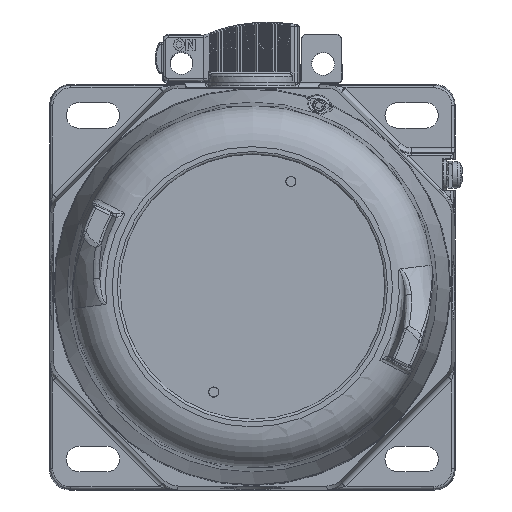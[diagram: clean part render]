
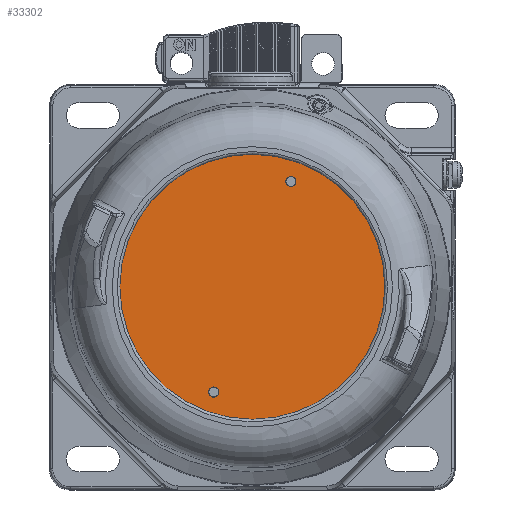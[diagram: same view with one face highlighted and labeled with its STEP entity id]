
A CAD part, top view. The second image highlights one B-rep face of the part: STEP entity #33302.
In plain terms, the highlighted planar face has unit normal (0, 0, 1) as drawn and (0, 1, 0) by its records, which use the part's own axes.
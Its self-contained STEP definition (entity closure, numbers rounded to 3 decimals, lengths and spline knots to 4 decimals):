
#1256=CIRCLE('',#35975,0.0625);
#1258=CIRCLE('',#35979,0.0625);
#1318=CIRCLE('',#36061,1.625);
#1319=CIRCLE('',#36062,1.625);
#2018=FACE_BOUND('',#6232,.T.);
#2019=FACE_BOUND('',#6233,.T.);
#2480=PLANE('',#36060);
#4236=FACE_OUTER_BOUND('',#6231,.T.);
#6231=EDGE_LOOP('',(#25397,#25398));
#6232=EDGE_LOOP('',(#25399));
#6233=EDGE_LOOP('',(#25400));
#14494=VERTEX_POINT('',#56135);
#14496=VERTEX_POINT('',#56142);
#14573=VERTEX_POINT('',#57782);
#14574=VERTEX_POINT('',#57783);
#18256=EDGE_CURVE('',#14494,#14494,#1256,.T.);
#18259=EDGE_CURVE('',#14496,#14496,#1258,.T.);
#18389=EDGE_CURVE('',#14573,#14574,#1318,.T.);
#18390=EDGE_CURVE('',#14574,#14573,#1319,.T.);
#25397=ORIENTED_EDGE('',*,*,#18389,.F.);
#25398=ORIENTED_EDGE('',*,*,#18390,.F.);
#25399=ORIENTED_EDGE('',*,*,#18256,.T.);
#25400=ORIENTED_EDGE('',*,*,#18259,.T.);
#33302=ADVANCED_FACE('',(#4236,#2018,#2019),#2480,.T.);
#35975=AXIS2_PLACEMENT_3D('',#56137,#41313,#41314);
#35979=AXIS2_PLACEMENT_3D('',#56144,#41322,#41323);
#36060=AXIS2_PLACEMENT_3D('',#57781,#41486,#41487);
#36061=AXIS2_PLACEMENT_3D('',#57784,#41488,#41489);
#36062=AXIS2_PLACEMENT_3D('',#57785,#41490,#41491);
#41313=DIRECTION('center_axis',(0.,-1.,0.));
#41314=DIRECTION('ref_axis',(-1.,0.,0.));
#41322=DIRECTION('center_axis',(0.,-1.,0.));
#41323=DIRECTION('ref_axis',(-1.,0.,0.));
#41486=DIRECTION('center_axis',(0.,1.,0.));
#41487=DIRECTION('ref_axis',(0.,0.,1.));
#41488=DIRECTION('center_axis',(0.,-1.,0.));
#41489=DIRECTION('ref_axis',(1.,0.,0.));
#41490=DIRECTION('center_axis',(0.,-1.,0.));
#41491=DIRECTION('ref_axis',(1.,0.,0.));
#56135=CARTESIAN_POINT('',(0.0625,2.284,1.375));
#56137=CARTESIAN_POINT('Origin',(0.,2.284,1.375));
#56142=CARTESIAN_POINT('',(0.0625,2.284,-1.375));
#56144=CARTESIAN_POINT('Origin',(0.,2.284,-1.375));
#57781=CARTESIAN_POINT('Origin',(0.8125,2.284,0.));
#57782=CARTESIAN_POINT('',(1.625,2.284,0.));
#57783=CARTESIAN_POINT('',(-1.625,2.284,0.));
#57784=CARTESIAN_POINT('Origin',(0.,2.284,0.));
#57785=CARTESIAN_POINT('Origin',(0.,2.284,0.));
